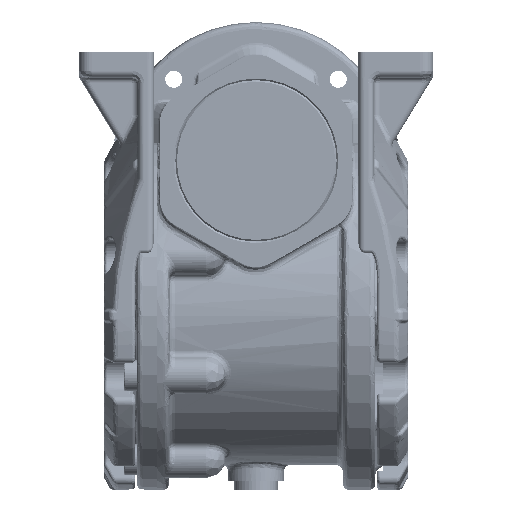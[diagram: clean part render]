
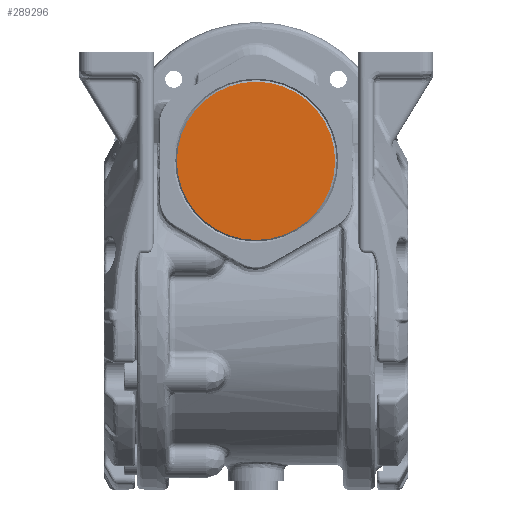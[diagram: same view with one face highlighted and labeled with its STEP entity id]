
A CAD part, top view. The second image highlights one B-rep face of the part: STEP entity #289296.
In plain terms, the highlighted planar face has unit normal (0, 0, 1).
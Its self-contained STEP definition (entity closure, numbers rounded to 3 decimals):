
#152943 = DIRECTION ( 'NONE',  ( -1., 0., 0. ) ) ;
#152944 = DIRECTION ( 'NONE',  ( 0., 0., -1. ) ) ;
#152945 = CARTESIAN_POINT ( 'NONE',  ( 3.467, 29.304, 65. ) ) ;
#152946 = AXIS2_PLACEMENT_3D ( 'NONE', #152945, #152944, #152943 ) ;
#152947 = CIRCLE ( 'NONE', #152946, 25.5 ) ;
#153077 = CARTESIAN_POINT ( 'NONE',  ( -22.033, 29.304, 65. ) ) ;
#153078 = CARTESIAN_POINT ( 'NONE',  ( 28.967, 29.304, 65. ) ) ;
#153844 = FACE_OUTER_BOUND ( 'NONE', #289304, .T. ) ;
#153879 = DIRECTION ( 'NONE',  ( -1., 0., 0. ) ) ;
#153880 = DIRECTION ( 'NONE',  ( 0., 0., -1. ) ) ;
#153881 = CARTESIAN_POINT ( 'NONE',  ( 3.467, 29.304, 65. ) ) ;
#153882 = AXIS2_PLACEMENT_3D ( 'NONE', #153881, #153880, #153879 ) ;
#153883 = CIRCLE ( 'NONE', #153882, 25.5 ) ;
#153890 = DIRECTION ( 'NONE',  ( 1., 0., 0. ) ) ;
#153891 = DIRECTION ( 'NONE',  ( 0., 0., 1. ) ) ;
#153892 = CARTESIAN_POINT ( 'NONE',  ( 3.467, 29.304, 65. ) ) ;
#153893 = AXIS2_PLACEMENT_3D ( 'NONE', #153892, #153891, #153890 ) ;
#153894 = PLANE ( 'NONE',  #153893 ) ;
#288562 = EDGE_CURVE ( 'NONE', #288657, #288662, #152947, .T. ) ;
#288657 = VERTEX_POINT ( 'NONE', #153077 ) ;
#288662 = VERTEX_POINT ( 'NONE', #153078 ) ;
#289296 = ADVANCED_FACE ( 'NONE', ( #153844 ), #153894, .T. ) ;
#289304 = EDGE_LOOP ( 'NONE', ( #289312, #289318 ) ) ;
#289312 = ORIENTED_EDGE ( 'NONE', *, *, #288562, .F. ) ;
#289318 = ORIENTED_EDGE ( 'NONE', *, *, #289322, .F. ) ;
#289322 = EDGE_CURVE ( 'NONE', #288662, #288657, #153883, .T. ) ;
